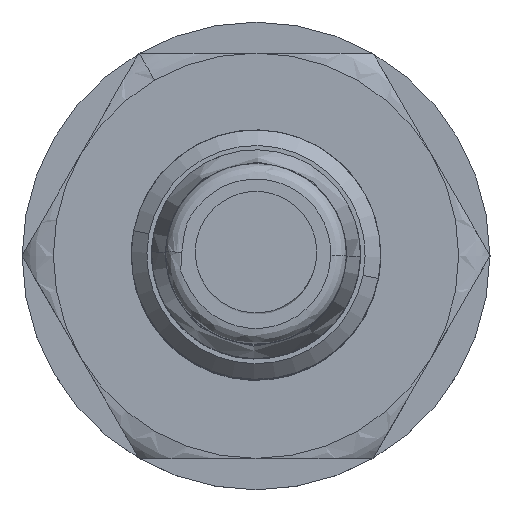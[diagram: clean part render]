
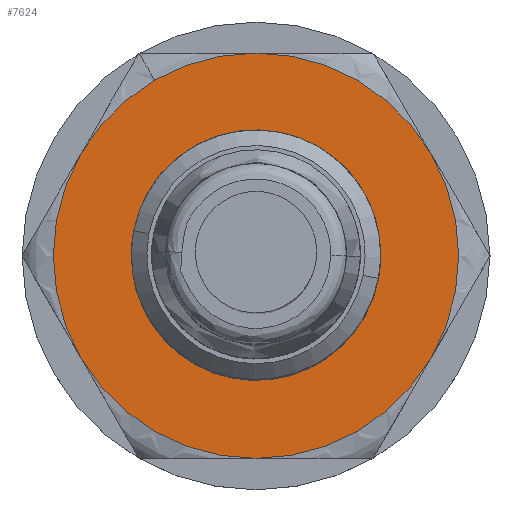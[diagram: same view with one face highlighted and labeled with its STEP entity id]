
A CAD part, top view. The second image highlights one B-rep face of the part: STEP entity #7624.
In plain terms, the highlighted planar face has unit normal (0, 0, 1) as drawn and (0, -1, 0) by its records, which use the part's own axes.
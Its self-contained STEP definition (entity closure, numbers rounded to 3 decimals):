
#14 = CIRCLE ( 'NONE', #4273, 6.5 ) ;
#436 = CIRCLE ( 'NONE', #2733, 6.5 ) ;
#549 = VERTEX_POINT ( 'NONE', #8947 ) ;
#590 = EDGE_CURVE ( 'NONE', #7580, #3062, #436, .T. ) ;
#623 = FACE_OUTER_BOUND ( 'NONE', #14386, .T. ) ;
#696 = DIRECTION ( 'NONE',  ( 0., 1., 0. ) ) ;
#946 = AXIS2_PLACEMENT_3D ( 'NONE', #12894, #696, #14311 ) ;
#1339 = ORIENTED_EDGE ( 'NONE', *, *, #8106, .T. ) ;
#1521 = CIRCLE ( 'NONE', #9485, 6.5 ) ;
#1684 = EDGE_CURVE ( 'NONE', #11398, #4261, #3291, .T. ) ;
#2109 = CARTESIAN_POINT ( 'NONE',  ( -3.25, 0., -5.629 ) ) ;
#2663 = DIRECTION ( 'NONE',  ( 0., -1., 0. ) ) ;
#2733 = AXIS2_PLACEMENT_3D ( 'NONE', #6178, #15632, #15548 ) ;
#3062 = VERTEX_POINT ( 'NONE', #17566 ) ;
#3128 = AXIS2_PLACEMENT_3D ( 'NONE', #11132, #16490, #15154 ) ;
#3291 = CIRCLE ( 'NONE', #5550, 3.9 ) ;
#3603 = DIRECTION ( 'NONE',  ( 0., 0., -1. ) ) ;
#3690 = AXIS2_PLACEMENT_3D ( 'NONE', #11286, #14053, #12631 ) ;
#3773 = EDGE_CURVE ( 'NONE', #10220, #16118, #1521, .T. ) ;
#3940 = CARTESIAN_POINT ( 'NONE',  ( 0., 0., 0. ) ) ;
#4073 = DIRECTION ( 'NONE',  ( 0., 0., -1. ) ) ;
#4261 = VERTEX_POINT ( 'NONE', #7924 ) ;
#4273 = AXIS2_PLACEMENT_3D ( 'NONE', #17540, #12256, #4073 ) ;
#4936 = CARTESIAN_POINT ( 'NONE',  ( 0., 0., 0. ) ) ;
#5550 = AXIS2_PLACEMENT_3D ( 'NONE', #16300, #13620, #6919 ) ;
#6048 = PLANE ( 'NONE',  #3128 ) ;
#6178 = CARTESIAN_POINT ( 'NONE',  ( 0., 0., 0. ) ) ;
#6255 = AXIS2_PLACEMENT_3D ( 'NONE', #4936, #15802, #3603 ) ;
#6750 = EDGE_CURVE ( 'NONE', #4261, #11398, #15164, .T. ) ;
#6919 = DIRECTION ( 'NONE',  ( 0., 0., 1. ) ) ;
#7580 = VERTEX_POINT ( 'NONE', #8724 ) ;
#7624 = ADVANCED_FACE ( 'NONE', ( #14074, #623 ), #6048, .F. ) ;
#7924 = CARTESIAN_POINT ( 'NONE',  ( 0., 0., 3.9 ) ) ;
#8106 = EDGE_CURVE ( 'NONE', #549, #16983, #9661, .T. ) ;
#8161 = DIRECTION ( 'NONE',  ( 0., 0., -1. ) ) ;
#8258 = CIRCLE ( 'NONE', #9400, 6.5 ) ;
#8428 = EDGE_CURVE ( 'NONE', #7580, #8948, #14, .T. ) ;
#8522 = ORIENTED_EDGE ( 'NONE', *, *, #8428, .T. ) ;
#8724 = CARTESIAN_POINT ( 'NONE',  ( 3.25, 0., 5.629 ) ) ;
#8947 = CARTESIAN_POINT ( 'NONE',  ( -3.25, 0., 5.629 ) ) ;
#8948 = VERTEX_POINT ( 'NONE', #13581 ) ;
#9192 = DIRECTION ( 'NONE',  ( 0., -1., 0. ) ) ;
#9400 = AXIS2_PLACEMENT_3D ( 'NONE', #3940, #9192, #10620 ) ;
#9485 = AXIS2_PLACEMENT_3D ( 'NONE', #16994, #12977, #10030 ) ;
#9661 = CIRCLE ( 'NONE', #3690, 6.5 ) ;
#9708 = CIRCLE ( 'NONE', #6255, 6.5 ) ;
#9865 = EDGE_CURVE ( 'NONE', #16983, #10220, #16934, .T. ) ;
#10030 = DIRECTION ( 'NONE',  ( 0., 0., -1. ) ) ;
#10220 = VERTEX_POINT ( 'NONE', #2109 ) ;
#10620 = DIRECTION ( 'NONE',  ( 0., 0., -1. ) ) ;
#11114 = ORIENTED_EDGE ( 'NONE', *, *, #3773, .T. ) ;
#11132 = CARTESIAN_POINT ( 'NONE',  ( 0., 0., 0. ) ) ;
#11286 = CARTESIAN_POINT ( 'NONE',  ( 0., 0., 0. ) ) ;
#11398 = VERTEX_POINT ( 'NONE', #13077 ) ;
#11470 = ORIENTED_EDGE ( 'NONE', *, *, #6750, .T. ) ;
#11817 = AXIS2_PLACEMENT_3D ( 'NONE', #17364, #2663, #8161 ) ;
#12256 = DIRECTION ( 'NONE',  ( 0., -1., 0. ) ) ;
#12631 = DIRECTION ( 'NONE',  ( 0., 0., -1. ) ) ;
#12828 = ORIENTED_EDGE ( 'NONE', *, *, #15445, .T. ) ;
#12846 = ORIENTED_EDGE ( 'NONE', *, *, #9865, .T. ) ;
#12894 = CARTESIAN_POINT ( 'NONE',  ( 0., 0., 0. ) ) ;
#12977 = DIRECTION ( 'NONE',  ( 0., -1., 0. ) ) ;
#13077 = CARTESIAN_POINT ( 'NONE',  ( 0., 0., -3.9 ) ) ;
#13199 = EDGE_LOOP ( 'NONE', ( #13336, #11470 ) ) ;
#13306 = EDGE_CURVE ( 'NONE', #16118, #3062, #8258, .T. ) ;
#13336 = ORIENTED_EDGE ( 'NONE', *, *, #1684, .T. ) ;
#13581 = CARTESIAN_POINT ( 'NONE',  ( 0., 0., 6.5 ) ) ;
#13620 = DIRECTION ( 'NONE',  ( 0., 1., 0. ) ) ;
#14053 = DIRECTION ( 'NONE',  ( 0., -1., 0. ) ) ;
#14074 = FACE_BOUND ( 'NONE', #13199, .T. ) ;
#14311 = DIRECTION ( 'NONE',  ( 0., 0., 1. ) ) ;
#14386 = EDGE_LOOP ( 'NONE', ( #11114, #15439, #15280, #8522, #12828, #1339, #12846 ) ) ;
#14787 = CARTESIAN_POINT ( 'NONE',  ( 3.25, 0., -5.629 ) ) ;
#15154 = DIRECTION ( 'NONE',  ( 1., 0., 0. ) ) ;
#15164 = CIRCLE ( 'NONE', #946, 3.9 ) ;
#15280 = ORIENTED_EDGE ( 'NONE', *, *, #590, .F. ) ;
#15439 = ORIENTED_EDGE ( 'NONE', *, *, #13306, .T. ) ;
#15445 = EDGE_CURVE ( 'NONE', #8948, #549, #9708, .T. ) ;
#15548 = DIRECTION ( 'NONE',  ( 0., 0., 1. ) ) ;
#15632 = DIRECTION ( 'NONE',  ( 0., 1., 0. ) ) ;
#15802 = DIRECTION ( 'NONE',  ( 0., -1., 0. ) ) ;
#16118 = VERTEX_POINT ( 'NONE', #14787 ) ;
#16300 = CARTESIAN_POINT ( 'NONE',  ( 0., 0., 0. ) ) ;
#16490 = DIRECTION ( 'NONE',  ( 0., 1., 0. ) ) ;
#16934 = CIRCLE ( 'NONE', #11817, 6.5 ) ;
#16975 = CARTESIAN_POINT ( 'NONE',  ( -6.5, 0., 0. ) ) ;
#16983 = VERTEX_POINT ( 'NONE', #16975 ) ;
#16994 = CARTESIAN_POINT ( 'NONE',  ( 0., 0., 0. ) ) ;
#17364 = CARTESIAN_POINT ( 'NONE',  ( 0., 0., 0. ) ) ;
#17540 = CARTESIAN_POINT ( 'NONE',  ( 0., 0., 0. ) ) ;
#17566 = CARTESIAN_POINT ( 'NONE',  ( 6.5, 0., 0. ) ) ;
